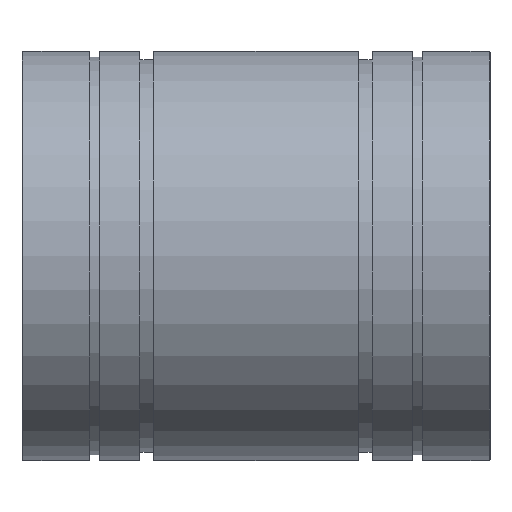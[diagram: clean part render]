
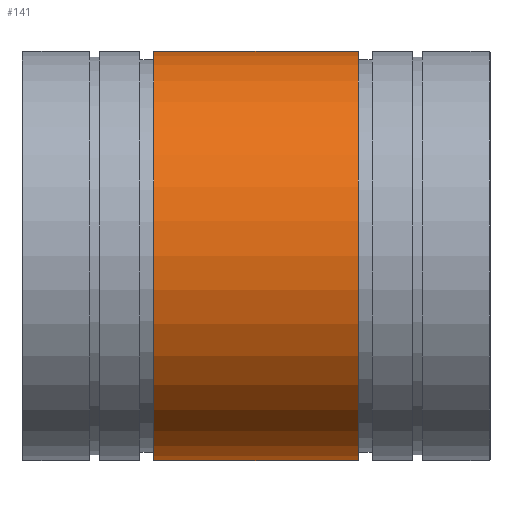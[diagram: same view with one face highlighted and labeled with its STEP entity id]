
A CAD part, top view. The second image highlights one B-rep face of the part: STEP entity #141.
In plain terms, the highlighted cylindrical face has radius 105 mm (diameter 210 mm), a partial arc.
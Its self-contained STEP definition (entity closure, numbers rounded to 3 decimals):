
#141=ADVANCED_FACE('',(#187),#188,.T.);
#187=FACE_OUTER_BOUND('',#241,.T.);
#188=CYLINDRICAL_SURFACE('',#242,105.0);
#241=EDGE_LOOP('',(#420,#421,#422,#423));
#242=AXIS2_PLACEMENT_3D('',#424,#425,#426);
#420=ORIENTED_EDGE('',*,*,#496,.F.);
#421=ORIENTED_EDGE('',*,*,#550,.F.);
#422=ORIENTED_EDGE('',*,*,#534,.F.);
#423=ORIENTED_EDGE('',*,*,#549,.T.);
#424=CARTESIAN_POINT('',(0.0,0.0,0.0));
#425=DIRECTION('',(1.0,-0.0,-0.0));
#426=DIRECTION('',(0.0,0.0,1.0));
#496=EDGE_CURVE('',#581,#583,#584,.F.);
#534=EDGE_CURVE('',#649,#651,#652,.T.);
#549=EDGE_CURVE('',#649,#583,#673,.T.);
#550=EDGE_CURVE('',#651,#581,#674,.T.);
#581=VERTEX_POINT('',#714);
#583=VERTEX_POINT('',#717);
#584=LINE('',#718,#719);
#649=VERTEX_POINT('',#840);
#651=VERTEX_POINT('',#843);
#652=LINE('',#844,#845);
#673=CIRCLE('',#873,105.0);
#674=CIRCLE('',#874,105.0);
#714=CARTESIAN_POINT('',(67.511,71.825,-76.591));
#717=CARTESIAN_POINT('',(172.489,71.825,-76.591));
#718=CARTESIAN_POINT('',(0.0,71.825,-76.591));
#719=VECTOR('',#891,1.0);
#840=CARTESIAN_POINT('',(172.489,-71.825,-76.591));
#843=CARTESIAN_POINT('',(67.511,-71.825,-76.591));
#844=CARTESIAN_POINT('',(0.0,-71.825,-76.591));
#845=VECTOR('',#938,1.0);
#873=AXIS2_PLACEMENT_3D('',#967,#968,#969);
#874=AXIS2_PLACEMENT_3D('',#970,#971,#972);
#891=DIRECTION('',(-1.0,0.0,0.0));
#938=DIRECTION('',(-1.0,0.0,0.0));
#967=CARTESIAN_POINT('',(172.489,0.0,0.0));
#968=DIRECTION('',(-1.0,0.0,0.0));
#969=DIRECTION('',(0.0,0.0,1.0));
#970=CARTESIAN_POINT('',(67.511,0.0,0.0));
#971=DIRECTION('',(-1.0,0.0,0.0));
#972=DIRECTION('',(0.0,0.0,1.0));
